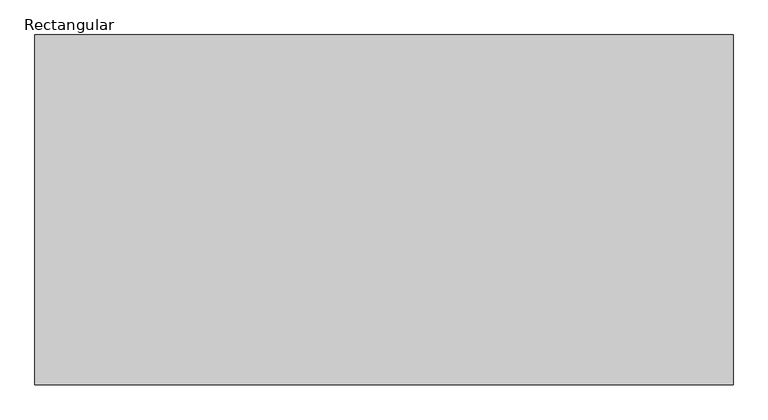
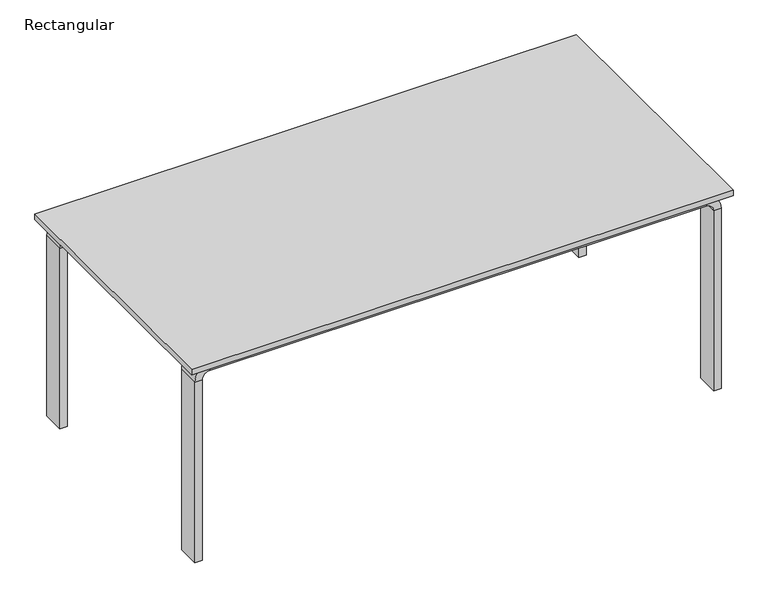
"""IFC4 building model written with IfcOpenShell, lengths in millimetres: furniture geometry, Alvar Aalto Table : Rectangular."""

from ifc_helpers import new_model, si_unit, frame, origin, place, context, project, spatial, polyline, circle_curve, outline, extrude, source, transform, mapped, element, save
from ifc_brep_helpers import plane_surface, cylinder_surface, revolved_surface, advanced_brep


def rectangular_1aa2b72e(model_context):
    return source(origin(), model_context, "Body", "SolidModel", [
        extrude(outline(polyline([(909.6375, 455.6125), (909.6375, -455.6125), (-909.6375, -455.6125), (-909.6375, 455.6125), (909.6375, 455.6125)])), frame((0.0, 0.0, 692.15), z_axis=(0.0, 0.0, 1.0), x_axis=(1.0, 0.0, 0.0)), (0.0, 0.0, 1.0), 19.05),
        advanced_brep(
        [(-858.8375, 430.2125, 0.0), (-858.8375, 354.0125, 0.0), (-884.2375, 354.0125, 0.0), (-884.2375, 430.2125, 0.0), (-858.8375, 430.2125, 641.35), (-858.8375, 354.0125, 641.35), (-884.2375, 354.0125, 641.35), (-884.2375, 430.2125, 641.35), (-833.4375, 354.0125, 666.75), (-833.4375, 430.2125, 666.75), (-833.4375, 354.0125, 692.15), (-833.4375, 430.2125, 692.15), (833.4375, 430.2125, 666.75), (833.4375, 354.0125, 666.75), (833.4375, 354.0125, 692.15), (833.4375, 430.2125, 692.15), (858.8375, 354.0125, 641.35), (858.8375, 430.2125, 641.35), (884.2375, 354.0125, 641.35), (884.2375, 430.2125, 641.35), (858.8375, 430.2125, 0.0), (884.2375, 430.2125, 0.0), (884.2375, 354.0125, 0.0), (858.8375, 354.0125, 0.0)],
        [
            (0, 1),
            (1, 2),
            (2, 3),
            (3, 0),
            (0, 4),
            (4, 5),
            (5, 1),
            (5, 6),
            (6, 2),
            (6, 7),
            (7, 3),
            (7, 4),
            (8, 5, circle_curve(frame((-833.4375, 354.0125, 641.35), z_axis=(0.0, -1.0, 0.0), x_axis=(-1.0, 0.0, 0.0)), 25.4)),
            (4, 9, circle_curve(frame((-833.4375, 430.2125, 641.35), z_axis=(0.0, 1.0, 0.0), x_axis=(-1.0, 0.0, 0.0)), 25.4)),
            (9, 8),
            (10, 6, circle_curve(frame((-833.4375, 354.0125, 641.35), z_axis=(0.0, -1.0, 0.0), x_axis=(-1.0, 0.0, 0.0)), 50.8)),
            (8, 10),
            (11, 7, circle_curve(frame((-833.4375, 430.2125, 641.35), z_axis=(0.0, -1.0, 0.0), x_axis=(-1.0, 0.0, 0.0)), 50.8)),
            (10, 11),
            (11, 9),
            (9, 12),
            (12, 13),
            (13, 8),
            (13, 14),
            (14, 10),
            (14, 15),
            (15, 11),
            (15, 12),
            (16, 13, circle_curve(frame((833.4375, 354.0125, 641.35), z_axis=(0.0, -1.0, 0.0), x_axis=(0.0, 0.0, 1.0)), 25.4)),
            (12, 17, circle_curve(frame((833.4375, 430.2125, 641.35), z_axis=(0.0, 1.0, 0.0), x_axis=(0.0, 0.0, 1.0)), 25.4)),
            (17, 16),
            (18, 14, circle_curve(frame((833.4375, 354.0125, 641.35), z_axis=(0.0, -1.0, 0.0), x_axis=(0.0, 0.0, 1.0)), 50.8)),
            (16, 18),
            (19, 15, circle_curve(frame((833.4375, 430.2125, 641.35), z_axis=(0.0, -1.0, 0.0), x_axis=(0.0, 0.0, 1.0)), 50.8)),
            (18, 19),
            (19, 17),
            (20, 21),
            (21, 22),
            (22, 23),
            (23, 20),
            (17, 20),
            (23, 16),
            (22, 18),
            (21, 19),
        ],
        [
            plane_surface(frame((-884.2375, -430.9616632, 0.0), z_axis=(0.0, 0.0, -1.0), x_axis=(1.0, 0.0, 0.0))),
            plane_surface(frame((-858.8375, 430.2125, 0.0), z_axis=(1.0, 0.0, 0.0), x_axis=(0.0, 0.0, 1.0))),
            plane_surface(frame((-858.8375, 354.0125, 0.0), z_axis=(0.0, -1.0, 0.0), x_axis=(0.0, 0.0, 1.0))),
            plane_surface(frame((-884.2375, 354.0125, 0.0), z_axis=(-1.0, 0.0, 0.0), x_axis=(0.0, 0.0, 1.0))),
            plane_surface(frame((-884.2375, 430.2125, 0.0), z_axis=(0.0, 1.0, 0.0), x_axis=(0.0, 0.0, 1.0))),
            revolved_surface(polyline([(-858.8375, 430.2125, 641.35), (-858.8375, 354.0125, 641.35)]), (-833.4375, 0.0, 641.35), (0.0, 1.0, 0.0)),
            plane_surface(frame((-833.4375, 354.0125, 641.35), z_axis=(0.0, -1.0, 0.0), x_axis=(-1.0, 0.0, 0.0))),
            cylinder_surface(frame((-833.4375, 0.0, 641.35), z_axis=(0.0, 1.0, 0.0), x_axis=(-1.0, 0.0, 0.0)), 50.8),
            plane_surface(frame((-833.4375, 430.2125, 641.35), z_axis=(0.0, 1.0, 0.0), x_axis=(-1.0, 0.0, 0.0))),
            plane_surface(frame((-833.4375, 430.2125, 666.75), z_axis=(0.0, 0.0, -1.0), x_axis=(1.0, 0.0, 0.0))),
            plane_surface(frame((-833.4375, 354.0125, 666.75), z_axis=(0.0, -1.0, 0.0), x_axis=(1.0, 0.0, 0.0))),
            plane_surface(frame((-833.4375, 354.0125, 692.15), z_axis=(0.0, 0.0, 1.0), x_axis=(1.0, 0.0, 0.0))),
            plane_surface(frame((-833.4375, 430.2125, 692.15), z_axis=(0.0, 1.0, 0.0), x_axis=(1.0, 0.0, 0.0))),
            revolved_surface(polyline([(833.4375, 430.2125, 666.75), (833.4375, 354.0125, 666.75)]), (833.4375, 0.0, 641.35), (0.0, 1.0, 0.0)),
            plane_surface(frame((833.4375, 354.0125, 641.35), z_axis=(0.0, -1.0, 0.0), x_axis=(0.0, 0.0, 1.0))),
            cylinder_surface(frame((833.4375, 0.0, 641.35), z_axis=(0.0, 1.0, 0.0), x_axis=(0.0, 0.0, 1.0)), 50.8),
            plane_surface(frame((833.4375, 430.2125, 641.35), z_axis=(0.0, 1.0, 0.0), x_axis=(0.0, 0.0, 1.0))),
            plane_surface(frame((884.2375, -430.9616632, 0.0), z_axis=(0.0, 0.0, -1.0), x_axis=(-1.0, 0.0, 0.0))),
            plane_surface(frame((858.8375, 430.2125, 641.35), z_axis=(-1.0, 0.0, 0.0), x_axis=(0.0, 0.0, -1.0))),
            plane_surface(frame((858.8375, 354.0125, 641.35), z_axis=(0.0, -1.0, 0.0), x_axis=(0.0, 0.0, -1.0))),
            plane_surface(frame((884.2375, 354.0125, 641.35), z_axis=(1.0, 0.0, 0.0), x_axis=(0.0, 0.0, -1.0))),
            plane_surface(frame((884.2375, 430.2125, 641.35), z_axis=(0.0, 1.0, 0.0), x_axis=(0.0, 0.0, -1.0))),
        ],
        [
            (0, [[1, 2, 3, 4]]),
            (1, [[-1, 5, 6, 7]]),
            (2, [[-2, -7, 8, 9]]),
            (3, [[-3, -9, 10, 11]]),
            (4, [[-4, -11, 12, -5]]),
            (5, [[13, -6, 14, 15]]),
            (6, [[16, -8, -13, 17]]),
            (7, [[18, -10, -16, 19]]),
            (8, [[-14, -12, -18, 20]]),
            (9, [[-15, 21, 22, 23]]),
            (10, [[-17, -23, 24, 25]]),
            (11, [[-19, -25, 26, 27]]),
            (12, [[-20, -27, 28, -21]]),
            (13, [[29, -22, 30, 31]]),
            (14, [[32, -24, -29, 33]]),
            (15, [[34, -26, -32, 35]]),
            (16, [[-30, -28, -34, 36]]),
            (17, [[37, 38, 39, 40]]),
            (18, [[-31, 41, -40, 42]]),
            (19, [[-33, -42, -39, 43]]),
            (20, [[-35, -43, -38, 44]]),
            (21, [[-36, -44, -37, -41]]),
        ],
    ),
        advanced_brep(
        [(-858.8375, -430.2125, 0.0), (-884.2375, -430.2125, 0.0), (-884.2375, -354.0125, 0.0), (-858.8375, -354.0125, 0.0), (-858.8375, -430.2125, 641.35), (-884.2375, -430.2125, 641.35), (-884.2375, -354.0125, 641.35), (-858.8375, -354.0125, 641.35), (-833.4375, -430.2125, 692.15), (-833.4375, -430.2125, 666.75), (-833.4375, -354.0125, 692.15), (-833.4375, -354.0125, 666.75), (833.4375, -430.2125, 666.75), (833.4375, -430.2125, 692.15), (833.4375, -354.0125, 692.15), (833.4375, -354.0125, 666.75), (884.2375, -430.2125, 641.35), (858.8375, -430.2125, 641.35), (884.2375, -354.0125, 641.35), (858.8375, -354.0125, 641.35), (858.8375, -430.2125, 0.0), (858.8375, -354.0125, 0.0), (884.2375, -354.0125, 0.0), (884.2375, -430.2125, 0.0)],
        [
            (0, 1),
            (1, 2),
            (2, 3),
            (3, 0),
            (0, 4),
            (4, 5),
            (5, 1),
            (5, 6),
            (6, 2),
            (6, 7),
            (7, 3),
            (7, 4),
            (8, 5, circle_curve(frame((-833.4375, -430.2125, 641.35), z_axis=(0.0, -1.0, 0.0), x_axis=(-1.0, 0.0, 0.0)), 50.8)),
            (4, 9, circle_curve(frame((-833.4375, -430.2125, 641.35), z_axis=(0.0, 1.0, 0.0), x_axis=(-1.0, 0.0, 0.0)), 25.4)),
            (9, 8),
            (10, 6, circle_curve(frame((-833.4375, -354.0125, 641.35), z_axis=(0.0, -1.0, 0.0), x_axis=(-1.0, 0.0, 0.0)), 50.8)),
            (8, 10),
            (11, 7, circle_curve(frame((-833.4375, -354.0125, 641.35), z_axis=(0.0, -1.0, 0.0), x_axis=(-1.0, 0.0, 0.0)), 25.4)),
            (10, 11),
            (11, 9),
            (9, 12),
            (12, 13),
            (13, 8),
            (13, 14),
            (14, 10),
            (14, 15),
            (15, 11),
            (15, 12),
            (16, 13, circle_curve(frame((833.4375, -430.2125, 641.35), z_axis=(0.0, -1.0, 0.0), x_axis=(0.0, 0.0, 1.0)), 50.8)),
            (12, 17, circle_curve(frame((833.4375, -430.2125, 641.35), z_axis=(0.0, 1.0, 0.0), x_axis=(0.0, 0.0, 1.0)), 25.4)),
            (17, 16),
            (18, 14, circle_curve(frame((833.4375, -354.0125, 641.35), z_axis=(0.0, -1.0, 0.0), x_axis=(0.0, 0.0, 1.0)), 50.8)),
            (16, 18),
            (19, 15, circle_curve(frame((833.4375, -354.0125, 641.35), z_axis=(0.0, -1.0, 0.0), x_axis=(0.0, 0.0, 1.0)), 25.4)),
            (18, 19),
            (19, 17),
            (20, 21),
            (21, 22),
            (22, 23),
            (23, 20),
            (17, 20),
            (23, 16),
            (22, 18),
            (21, 19),
        ],
        [
            plane_surface(frame((-884.2375, -430.9616632, 0.0), z_axis=(0.0, 0.0, -1.0), x_axis=(1.0, 0.0, 0.0))),
            plane_surface(frame((-858.8375, -430.2125, 0.0), z_axis=(0.0, -1.0, 0.0), x_axis=(0.0, 0.0, 1.0))),
            plane_surface(frame((-884.2375, -430.2125, 0.0), z_axis=(-1.0, 0.0, 0.0), x_axis=(0.0, 0.0, 1.0))),
            plane_surface(frame((-884.2375, -354.0125, 0.0), z_axis=(0.0, 1.0, 0.0), x_axis=(0.0, 0.0, 1.0))),
            plane_surface(frame((-858.8375, -354.0125, 0.0), z_axis=(1.0, 0.0, 0.0), x_axis=(0.0, 0.0, 1.0))),
            plane_surface(frame((-833.4375, -430.2125, 641.35), z_axis=(0.0, -1.0, 0.0), x_axis=(-1.0, 0.0, 0.0))),
            cylinder_surface(frame((-833.4375, 0.0, 641.35), z_axis=(0.0, 1.0, 0.0), x_axis=(-1.0, 0.0, 0.0)), 50.8),
            plane_surface(frame((-833.4375, -354.0125, 641.35), z_axis=(0.0, 1.0, 0.0), x_axis=(-1.0, 0.0, 0.0))),
            revolved_surface(polyline([(-858.8375, -354.0125, 641.35), (-858.8375, -430.2125, 641.35)]), (-833.4375, 0.0, 641.35), (0.0, 1.0, 0.0)),
            plane_surface(frame((-833.4375, -430.2125, 666.75), z_axis=(0.0, -1.0, 0.0), x_axis=(1.0, 0.0, 0.0))),
            plane_surface(frame((-833.4375, -430.2125, 692.15), z_axis=(0.0, 0.0, 1.0), x_axis=(1.0, 0.0, 0.0))),
            plane_surface(frame((-833.4375, -354.0125, 692.15), z_axis=(0.0, 1.0, 0.0), x_axis=(1.0, 0.0, 0.0))),
            plane_surface(frame((-833.4375, -354.0125, 666.75), z_axis=(0.0, 0.0, -1.0), x_axis=(1.0, 0.0, 0.0))),
            plane_surface(frame((833.4375, -430.2125, 641.35), z_axis=(0.0, -1.0, 0.0), x_axis=(0.0, 0.0, 1.0))),
            cylinder_surface(frame((833.4375, 0.0, 641.35), z_axis=(0.0, 1.0, 0.0), x_axis=(0.0, 0.0, 1.0)), 50.8),
            plane_surface(frame((833.4375, -354.0125, 641.35), z_axis=(0.0, 1.0, 0.0), x_axis=(0.0, 0.0, 1.0))),
            revolved_surface(polyline([(833.4375, -354.0125, 666.75), (833.4375, -430.2125, 666.75)]), (833.4375, 0.0, 641.35), (0.0, 1.0, 0.0)),
            plane_surface(frame((884.2375, -430.9616632, 0.0), z_axis=(0.0, 0.0, -1.0), x_axis=(-1.0, 0.0, 0.0))),
            plane_surface(frame((858.8375, -430.2125, 641.35), z_axis=(0.0, -1.0, 0.0), x_axis=(0.0, 0.0, -1.0))),
            plane_surface(frame((884.2375, -430.2125, 641.35), z_axis=(1.0, 0.0, 0.0), x_axis=(0.0, 0.0, -1.0))),
            plane_surface(frame((884.2375, -354.0125, 641.35), z_axis=(0.0, 1.0, 0.0), x_axis=(0.0, 0.0, -1.0))),
            plane_surface(frame((858.8375, -354.0125, 641.35), z_axis=(-1.0, 0.0, 0.0), x_axis=(0.0, 0.0, -1.0))),
        ],
        [
            (0, [[1, 2, 3, 4]]),
            (1, [[-1, 5, 6, 7]]),
            (2, [[-2, -7, 8, 9]]),
            (3, [[-3, -9, 10, 11]]),
            (4, [[-4, -11, 12, -5]]),
            (5, [[13, -6, 14, 15]]),
            (6, [[16, -8, -13, 17]]),
            (7, [[18, -10, -16, 19]]),
            (8, [[-14, -12, -18, 20]]),
            (9, [[-15, 21, 22, 23]]),
            (10, [[-17, -23, 24, 25]]),
            (11, [[-19, -25, 26, 27]]),
            (12, [[-20, -27, 28, -21]]),
            (13, [[29, -22, 30, 31]]),
            (14, [[32, -24, -29, 33]]),
            (15, [[34, -26, -32, 35]]),
            (16, [[-30, -28, -34, 36]]),
            (17, [[37, 38, 39, 40]]),
            (18, [[-31, 41, -40, 42]]),
            (19, [[-33, -42, -39, 43]]),
            (20, [[-35, -43, -38, 44]]),
            (21, [[-36, -44, -37, -41]]),
        ],
    ),
    ])


if __name__ == "__main__":
    model = new_model("IFC4")
    model_context = context("Model", 3, world=origin())
    ifc_project = project(units=[si_unit("LENGTHUNIT", "METRE", prefix="MILLI")], contexts=[model_context])
    site = spatial("IfcSite", under=ifc_project)
    building = spatial("IfcBuilding", under=site)
    placement = place(None, origin())
    rectangular_shape = rectangular_1aa2b72e(model_context)
    element("IfcFurniture", 1, ObjectType="Alvar Aalto Table : Rectangular", at=placement, inside=building, context=model_context, shape_type="MappedRepresentation", body=[
        mapped(rectangular_shape, transform((0.0, 0.0, 0.0), x_axis=(1.0, 0.0, 0.0), y_axis=(0.0, 1.0, 0.0), z_axis=(0.0, 0.0, 1.0))),
    ])
    save(model, "model.ifc")
